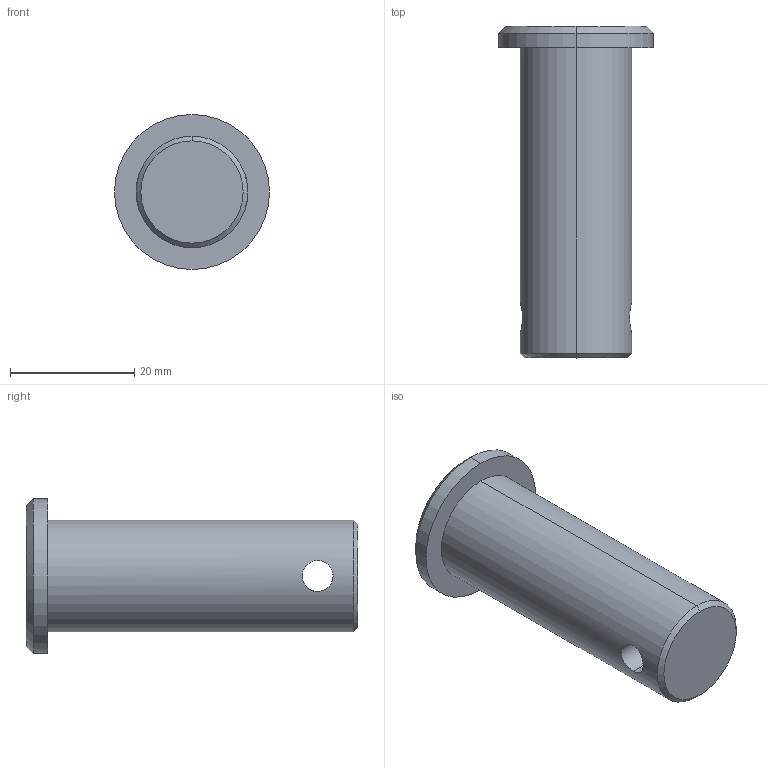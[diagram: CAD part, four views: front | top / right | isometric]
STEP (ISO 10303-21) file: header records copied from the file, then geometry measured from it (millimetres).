
FILE_DESCRIPTION (( 'STEP AP203' ), '1' );
FILE_NAME ('65660.W0118.step', '2023-10-06T09:59:37', ( '' ), ( '' ), 'SwSTEP 2.0', 'SolidWorks 2019', '' );
FILE_SCHEMA (( 'CONFIG_CONTROL_DESIGN' ));
Length unit declared in the file: millimetre
Products named in the file (1): 65660.W0118
Bounding box: 25 x 53.5 x 25 mm (x, y, z)
Volume: 14024.3 mm3; surface area: 4240.6 mm2
Topology: 1 solids, 1 shells, 13 faces, 26 edges, 16 vertices
Faces by surface type: cylinder 6, cone 4, plane 3
Entity records: 529 total; most frequent: CARTESIAN_POINT 172, DIRECTION 62, ORIENTED_EDGE 52, AXIS2_PLACEMENT_3D 26, EDGE_CURVE 26, VERTEX_POINT 16, EDGE_LOOP 16, ADVANCED_FACE 13
